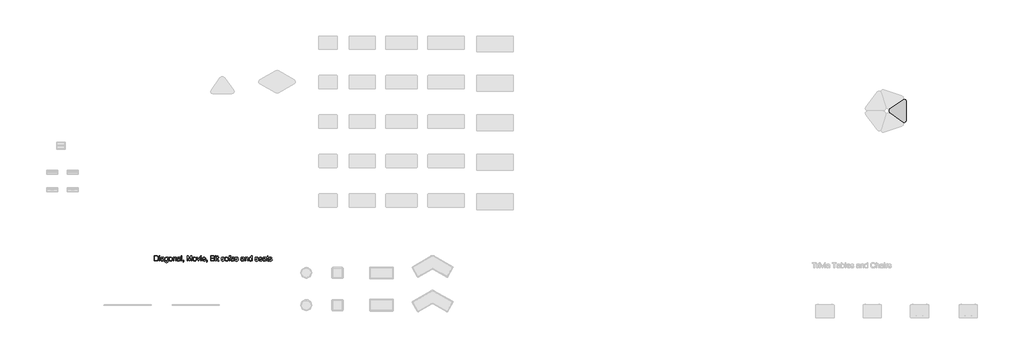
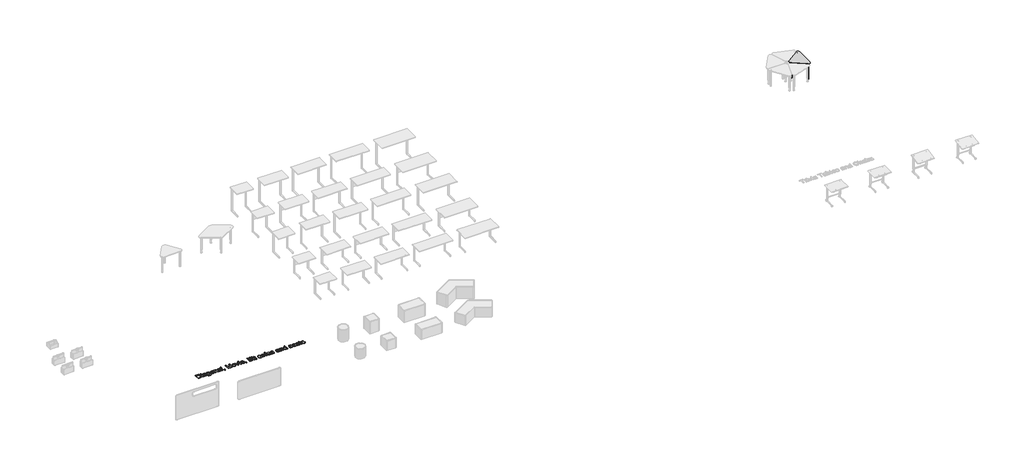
# One storey, part 2 of 3: 1 furniture element, 1 proxy.
"""IFC4 building model written with IfcOpenShell, lengths in millimetres."""

from ifc_helpers import new_model, si_unit, origin, origin_with_axes, place, context, project, spatial, polyline, outline, extrude, transform, mapped, element, save
from components import adjustable_legs_d527a67b

model = new_model("IFC4")

# Units and contexts
model_context = context("Model", 3, world=origin())
ifc_project = project(units=[si_unit("LENGTHUNIT", "METRE", prefix="MILLI")], contexts=[model_context])

# Site, building, storey
site = spatial("IfcSite", under=ifc_project)
building = spatial("IfcBuilding", under=site)
storey = spatial("IfcBuildingStorey", under=building, Name="Diagonal, Movie, Bit sofas and seats", Elevation=0.0)

# Proxy
placement = place(None, origin())
element("IfcBuildingElementProxy", 1, Name="200mm Arial", ObjectType="200mm Arial", at=placement, inside=storey, context=model_context, shape_type="SweptSolid", body=[
    extrude(outline(polyline([(-26454.8601888, 19572.007816), (-26454.8601888, 19772.9204363), (-26385.5512209, 19772.9204363), (-26349.6949891, 19770.0264313), (-26333.6798596, 19764.4468877), (-26320.1663276, 19755.654508), (-26306.2726509, 19740.350617), (-26296.3766253, 19721.3188551), (-26290.4537252, 19698.9271043), (-26288.4794251, 19673.5432467), (-26293.8259768, 19633.0026508), (-26307.5602379, 19603.7437695), (-26325.9052868, 19585.521348), (-26349.9157183, 19575.4413813), (-26382.2157575, 19572.007816), (-26454.8601888, 19572.007816)]), holes=[polyline([(-26429.7461113, 19597.1218935), (-26385.3059662, 19597.1218935), (-26352.9814016, 19600.7516626), (-26334.3420472, 19611.0033075), (-26325.6171125, 19621.8742205), (-26319.0626816, 19635.9457068), (-26314.9607974, 19653.2790801), (-26313.5935027, 19673.9356541), (-26316.2729098, 19701.3060746), (-26324.3111314, 19721.5150588), (-26336.1875885, 19735.3964728), (-26350.3817022, 19743.7841823), (-26385.9926793, 19747.8063588), (-26429.7461113, 19747.8063588), (-26429.7461113, 19597.1218935)])]), origin_with_axes(), (0.0, 0.0, 1.0), 10.0),
    extrude(outline(polyline([(-26257.0868282, 19747.8063588), (-26257.0868282, 19772.9204363), (-26231.9727507, 19772.9204363), (-26231.9727507, 19747.8063588), (-26257.0868282, 19747.8063588)])), origin_with_axes(), (0.0, 0.0, 1.0), 10.0),
    extrude(outline(polyline([(-26257.0868282, 19572.007816), (-26257.0868282, 19719.5530215), (-26231.9727507, 19719.5530215), (-26231.9727507, 19572.007816), (-26257.0868282, 19572.007816)])), origin_with_axes(), (0.0, 0.0, 1.0), 10.0),
    extrude(outline(polyline([(-26100.1238436, 19590.8433742), (-26124.4776317, 19573.8227005), (-26151.3820682, 19568.8685563), (-26172.3697361, 19571.8484005), (-26187.8514367, 19580.787933), (-26197.3979745, 19594.3627786), (-26200.5801537, 19611.2485622), (-26195.7731623, 19631.1141899), (-26183.1425472, 19645.5351641), (-26165.5577878, 19653.7757208), (-26143.8282246, 19657.5526426), (-26100.2709964, 19666.1856068), (-26100.1238436, 19671.7774131), (-26101.852889, 19682.9855512), (-26107.0400251, 19690.3186657), (-26118.6405707, 19695.7633192), (-26134.802853, 19697.5782037), (-26149.7633875, 19696.3703245), (-26160.2112361, 19692.7466868), (-26167.3358841, 19686.0451031), (-26172.3268165, 19675.6033858), (-26197.440894, 19678.7426455), (-26186.5761124, 19703.2681119), (-26177.3177489, 19711.5209313), (-26164.6993965, 19717.6400352), (-26131.5654914, 19722.6922812), (-26101.1293877, 19718.2286464), (-26083.9370358, 19707.0205082), (-26076.2360394, 19689.9753091), (-26075.009766, 19668.0004913), (-26075.009766, 19636.7550472), (-26073.7344418, 19593.1242425), (-26068.7312467, 19572.007816), (-26093.8453242, 19572.007816), (-26100.1238436, 19590.8433742)]), holes=[polyline([(-26100.1238436, 19641.0715292), (-26140.639914, 19633.3705328), (-26162.2468498, 19629.2993054), (-26172.0325109, 19622.6774295), (-26175.4660762, 19613.0143957), (-26173.5960094, 19605.5463912), (-26167.985809, 19599.4272874), (-26158.7581022, 19595.3437972), (-26146.0355166, 19593.9826339), (-26132.5465101, 19595.4848187), (-26120.6271334, 19599.9913731), (-26104.2441219, 19614.5349747), (-26100.2709964, 19633.959144), (-26100.1238436, 19641.0715292)])]), origin_with_axes(), (0.0, 0.0, 1.0), 10.0),
    extrude(outline(polyline([(-26046.7564288, 19559.4507772), (-26021.6423513, 19556.3115175), (-26018.8709736, 19548.4633683), (-26013.4998965, 19543.0677657), (-26002.9416832, 19538.873911), (-25989.1215829, 19537.4759594), (-25974.3817776, 19539.057852), (-25963.4188942, 19543.8035297), (-25955.8159996, 19551.4064243), (-25951.156161, 19561.5599673), (-25949.4393784, 19590.8433742), (-25967.1222396, 19576.7167055), (-25988.6801245, 19572.007816), (-26014.5728856, 19577.4892577), (-26033.880559, 19593.9335829), (-26045.8919061, 19618.0421163), (-26049.8956885, 19646.5161828), (-26048.0991981, 19666.7926121), (-26042.7097269, 19685.4380979), (-26033.9173472, 19701.2386295), (-26021.9121314, 19712.9801966), (-26007.1048811, 19720.2642601), (-25989.9063978, 19722.6922812), (-25967.5023843, 19717.1985768), (-25949.4393784, 19700.7174634), (-25949.4393784, 19719.5530215), (-25924.3253008, 19719.5530215), (-25924.3253008, 19592.1677493), (-25926.0420835, 19562.7555838), (-25931.1924314, 19543.3865968), (-25940.0645188, 19530.5413838), (-25952.94652, 19520.7005404), (-25969.5563921, 19514.4465465), (-25989.6120922, 19512.3618819), (-26012.9787303, 19515.2988065), (-26031.3789614, 19524.1095802), (-26043.1818421, 19538.8187287), (-26046.7564288, 19559.4507772)]), holes=[polyline([(-26024.781611, 19648.2329654), (-26022.1022038, 19625.1974211), (-26014.0639822, 19609.3601013), (-26001.9790586, 19600.1814455), (-25987.1595456, 19597.1218935), (-25972.4503972, 19600.1630514), (-25960.3041599, 19609.2865249), (-25952.1555738, 19624.9215096), (-25949.4393784, 19647.4972014), (-25952.2352815, 19669.2696842), (-25960.622991, 19684.9475885), (-25972.9470378, 19694.4205499), (-25987.5519531, 19697.5782037), (-26001.8932195, 19694.4696008), (-26013.9168294, 19685.1437923), (-26022.0654156, 19669.6988798), (-26024.781611, 19648.2329654)])]), origin_with_axes(), (0.0, 0.0, 1.0), 10.0),
    extrude(outline(polyline([(-25892.9327039, 19645.7804188), (-25887.5003131, 19681.3546077), (-25880.7098246, 19695.1777737), (-25871.2031407, 19706.3583206), (-25851.0677328, 19718.6087911), (-25826.9591994, 19722.6922812), (-25800.575929, 19717.7197429), (-25779.5024221, 19702.802128), (-25765.6884531, 19679.1166589), (-25761.0837968, 19647.8405579), (-25763.1194105, 19622.468963), (-25769.2262517, 19603.1551583), (-25779.2265106, 19588.6912645), (-25792.9423776, 19577.8694025), (-25809.2334186, 19571.1187679), (-25826.9591994, 19568.8685563), (-25853.6613009, 19573.8227005), (-25874.7102824, 19588.6851331), (-25888.3770985, 19612.8672429), (-25892.9327039, 19645.7804188)]), holes=[polyline([(-25867.8186264, 19645.8294697), (-25864.9123586, 19623.1004938), (-25856.1935553, 19606.9075546), (-25843.0724308, 19597.213864), (-25826.9591994, 19593.9826339), (-25810.9195444, 19597.2322581), (-25797.8229454, 19606.981131), (-25789.1041421, 19623.388668), (-25786.1978744, 19646.6142846), (-25789.1225362, 19668.681073), (-25797.8965218, 19684.6532829), (-25811.0115149, 19694.3469735), (-25826.9591994, 19697.5782037), (-25843.0724308, 19694.3592362), (-25856.1935553, 19684.7023339), (-25864.9123586, 19668.5461829), (-25867.8186264, 19645.8294697)])]), origin_with_axes(), (0.0, 0.0, 1.0), 10.0),
    extrude(outline(polyline([(-25732.8304596, 19572.007816), (-25732.8304596, 19719.5530215), (-25707.7163821, 19719.5530215), (-25707.7163821, 19698.9516298), (-25698.9914474, 19709.3381648), (-25688.5129419, 19716.7571184), (-25676.2808656, 19721.2084905), (-25662.2952184, 19722.6922812), (-25638.5790924, 19717.9098153), (-25622.3922846, 19705.3527765), (-25614.8629665, 19686.8851004), (-25613.5385913, 19662.6048887), (-25613.5385913, 19572.007816), (-25638.6526688, 19572.007816), (-25638.6526688, 19659.2203743), (-25641.5466739, 19681.4404468), (-25651.7737933, 19693.1881452), (-25669.0151962, 19697.5782037), (-25683.7243446, 19695.1133943), (-25696.2629893, 19687.7189662), (-25704.8530339, 19673.4328821), (-25707.7163821, 19650.2931046), (-25707.7163821, 19572.007816), (-25732.8304596, 19572.007816)])), origin_with_axes(), (0.0, 0.0, 1.0), 10.0),
    extrude(outline(polyline([(-25484.8289439, 19590.8433742), (-25509.182732, 19573.8227005), (-25536.0871686, 19568.8685563), (-25557.0748364, 19571.8484005), (-25572.556537, 19580.787933), (-25582.1030748, 19594.3627786), (-25585.2852541, 19611.2485622), (-25580.4782627, 19631.1141899), (-25567.8476475, 19645.5351641), (-25550.2628881, 19653.7757208), (-25528.5333249, 19657.5526426), (-25484.9760967, 19666.1856068), (-25484.8289439, 19671.7774131), (-25486.5579893, 19682.9855512), (-25491.7451254, 19690.3186657), (-25503.345671, 19695.7633192), (-25519.5079533, 19697.5782037), (-25534.4684878, 19696.3703245), (-25544.9163365, 19692.7466868), (-25552.0409844, 19686.0451031), (-25557.0319168, 19675.6033858), (-25582.1459944, 19678.7426455), (-25571.2812128, 19703.2681119), (-25562.0228492, 19711.5209313), (-25549.4044968, 19717.6400352), (-25516.2705918, 19722.6922812), (-25485.834488, 19718.2286464), (-25468.6421361, 19707.0205082), (-25460.9411397, 19689.9753091), (-25459.7148664, 19668.0004913), (-25459.7148664, 19636.7550472), (-25458.4395421, 19593.1242425), (-25453.436347, 19572.007816), (-25478.5504245, 19572.007816), (-25484.8289439, 19590.8433742)]), holes=[polyline([(-25484.8289439, 19641.0715292), (-25525.3450143, 19633.3705328), (-25546.9519502, 19629.2993054), (-25556.7376112, 19622.6774295), (-25560.1711765, 19613.0143957), (-25558.3011097, 19605.5463912), (-25552.6909093, 19599.4272874), (-25543.4632026, 19595.3437972), (-25530.7406169, 19593.9826339), (-25517.2516104, 19595.4848187), (-25505.3322338, 19599.9913731), (-25488.9492223, 19614.5349747), (-25484.9760967, 19633.959144), (-25484.8289439, 19641.0715292)])]), origin_with_axes(), (0.0, 0.0, 1.0), 10.0),
    extrude(outline(polyline([(-25425.1830098, 19572.007816), (-25425.1830098, 19772.9204363), (-25400.0689322, 19772.9204363), (-25400.0689322, 19572.007816), (-25425.1830098, 19572.007816)])), origin_with_axes(), (0.0, 0.0, 1.0), 10.0),
    extrude(outline(polyline([(-25356.1192965, 19572.007816), (-25356.1192965, 19597.1218935), (-25331.005219, 19597.1218935), (-25331.005219, 19572.007816), (-25335.5179048, 19546.3296527), (-25341.3549658, 19537.653769), (-25349.8407772, 19531.19744), (-25356.1192965, 19540.6152191), (-25346.8977212, 19551.4554752), (-25343.6113087, 19572.007816), (-25356.1192965, 19572.007816)])), origin_with_axes(), (0.0, 0.0, 1.0), 10.0),
    extrude(outline(polyline([(-25202.2955716, 19572.007816), (-25202.2955716, 19772.9204363), (-25159.0816999, 19772.9204363), (-25117.9770183, 19631.3103936), (-25109.6874107, 19601.7326812), (-25100.71109, 19633.7629403), (-25060.2931215, 19772.9204363), (-25017.0792498, 19772.9204363), (-25017.0792498, 19572.007816), (-25042.1933273, 19572.007816), (-25042.1933273, 19747.8063588), (-25092.6667371, 19572.007816), (-25126.7080843, 19572.007816), (-25177.1814941, 19747.8063588), (-25177.1814941, 19572.007816), (-25202.2955716, 19572.007816)])), origin_with_axes(), (0.0, 0.0, 1.0), 10.0),
    extrude(outline(polyline([(-24982.5473932, 19645.7804188), (-24977.1150024, 19681.3546077), (-24970.3245139, 19695.1777737), (-24960.81783, 19706.3583206), (-24940.6824221, 19718.6087911), (-24916.5738887, 19722.6922812), (-24890.1906183, 19717.7197429), (-24869.1171113, 19702.802128), (-24855.3031424, 19679.1166589), (-24850.6984861, 19647.8405579), (-24852.7340998, 19622.468963), (-24858.8409409, 19603.1551583), (-24868.8411998, 19588.6912645), (-24882.5570669, 19577.8694025), (-24898.8481079, 19571.1187679), (-24916.5738887, 19568.8685563), (-24943.2759902, 19573.8227005), (-24964.3249717, 19588.6851331), (-24977.9917878, 19612.8672429), (-24982.5473932, 19645.7804188)]), holes=[polyline([(-24957.4333156, 19645.8294697), (-24954.5270479, 19623.1004938), (-24945.8082446, 19606.9075546), (-24932.6871201, 19597.213864), (-24916.5738887, 19593.9826339), (-24900.5342337, 19597.2322581), (-24887.4376347, 19606.981131), (-24878.7188314, 19623.388668), (-24875.8125636, 19646.6142846), (-24878.7372255, 19668.681073), (-24887.5112111, 19684.6532829), (-24900.6262042, 19694.3469735), (-24916.5738887, 19697.5782037), (-24932.6871201, 19694.3592362), (-24945.8082446, 19684.7023339), (-24954.5270479, 19668.5461829), (-24957.4333156, 19645.8294697)])]), origin_with_axes(), (0.0, 0.0, 1.0), 10.0),
    extrude(outline(polyline([(-24786.2455605, 19572.007816), (-24838.1414473, 19719.5530215), (-24811.5558418, 19719.5530215), (-24780.114194, 19631.1632408), (-24770.6473639, 19601.4383756), (-24761.3767377, 19629.4955091), (-24729.7388861, 19719.5530215), (-24703.1532806, 19719.5530215), (-24754.4115052, 19572.007816), (-24786.2455605, 19572.007816)])), origin_with_axes(), (0.0, 0.0, 1.0), 10.0),
    extrude(outline(polyline([(-24681.1784627, 19572.007816), (-24681.1784627, 19719.5530215), (-24656.0643852, 19719.5530215), (-24656.0643852, 19572.007816), (-24681.1784627, 19572.007816)])), origin_with_axes(), (0.0, 0.0, 1.0), 10.0),
    extrude(outline(polyline([(-24681.1784627, 19747.8063588), (-24681.1784627, 19772.9204363), (-24656.0643852, 19772.9204363), (-24656.0643852, 19747.8063588), (-24681.1784627, 19747.8063588)])), origin_with_axes(), (0.0, 0.0, 1.0), 10.0),
    extrude(outline(polyline([(-24515.0920046, 19615.9574517), (-24490.4684364, 19612.818192), (-24499.3405239, 19594.2646767), (-24513.4978493, 19580.3955255), (-24532.6215817, 19571.7502986), (-24556.39289, 19568.8685563), (-24585.8602378, 19573.8410946), (-24608.5340314, 19588.7587095), (-24622.9917938, 19612.6526451), (-24627.811048, 19644.5541455), (-24622.9427429, 19677.528635), (-24608.3378277, 19702.1889914), (-24585.9706024, 19717.5664588), (-24557.815367, 19722.6922812), (-24530.5369171, 19717.5787215), (-24508.7399088, 19702.2380423), (-24494.4476933, 19677.6267368), (-24489.6836215, 19644.7012983), (-24489.8307743, 19637.9322695), (-24602.6969704, 19637.9322695), (-24598.3498315, 19619.1334996), (-24588.2514707, 19605.3133993), (-24573.6772124, 19596.8153252), (-24555.9023806, 19593.9826339), (-24531.2788124, 19599.2310837), (-24522.1308135, 19606.0369006), (-24515.0920046, 19615.9574517)]), holes=[polyline([(-24602.6969704, 19663.0463471), (-24514.797699, 19663.0463471), (-24518.1944761, 19676.3146244), (-24524.8531402, 19685.8059798), (-24539.4948436, 19694.6351477), (-24557.9134689, 19697.5782037), (-24574.842172, 19695.2298903), (-24588.8400819, 19688.1849501), (-24598.5705607, 19677.2036725), (-24602.6969704, 19663.0463471)])]), origin_with_axes(), (0.0, 0.0, 1.0), 10.0),
    extrude(outline(polyline([(-24458.2910246, 19572.007816), (-24458.2910246, 19597.1218935), (-24433.176947, 19597.1218935), (-24433.176947, 19572.007816), (-24437.6896328, 19546.3296527), (-24443.5266938, 19537.653769), (-24452.0125052, 19531.19744), (-24458.2910246, 19540.6152191), (-24449.0694492, 19551.4554752), (-24445.7830367, 19572.007816), (-24458.2910246, 19572.007816)])), origin_with_axes(), (0.0, 0.0, 1.0), 10.0),
    extrude(outline(polyline([(-24304.4672997, 19572.007816), (-24304.4672997, 19772.9204363), (-24227.8006919, 19772.9204363), (-24206.7149222, 19771.442777), (-24190.2522029, 19767.0097989), (-24177.6338505, 19759.5111376), (-24168.0811813, 19748.8364284), (-24162.0663107, 19736.2793896), (-24160.0613538, 19723.1337396), (-24161.7474796, 19711.0365534), (-24166.8058571, 19699.6628683), (-24175.2732743, 19689.7116604), (-24187.1865196, 19681.8819052), (-24172.9556177, 19674.4506889), (-24162.4403241, 19663.1444489), (-24155.9472068, 19648.711212), (-24153.7828344, 19631.8990048), (-24159.6934718, 19604.8964664), (-24174.3351752, 19585.6685008), (-24196.1873657, 19575.4659068), (-24228.3893031, 19572.007816), (-24304.4672997, 19572.007816)]), holes=[polyline([(-24279.3532221, 19691.2996843), (-24233.4906001, 19691.2996843), (-24206.7087908, 19693.4579253), (-24190.5955594, 19702.7530771), (-24185.1754314, 19719.1115631), (-24190.2276774, 19735.4945747), (-24204.6977026, 19745.1821339), (-24236.9732163, 19747.8063588), (-24279.3532221, 19747.8063588), (-24279.3532221, 19691.2996843)]), polyline([(-24279.3532221, 19597.1218935), (-24227.8497428, 19597.1218935), (-24209.2103884, 19598.1029122), (-24193.4405135, 19603.5720912), (-24182.9926649, 19614.7311784), (-24178.896912, 19631.6537502), (-24183.7039034, 19651.1760214), (-24190.0008169, 19658.2332243), (-24199.2775745, 19662.8256179), (-24230.3022894, 19666.1856068), (-24279.3532221, 19666.1856068), (-24279.3532221, 19597.1218935)])]), origin_with_axes(), (0.0, 0.0, 1.0), 10.0),
    extrude(outline(polyline([(-24122.3902375, 19572.007816), (-24122.3902375, 19719.5530215), (-24097.27616, 19719.5530215), (-24097.27616, 19572.007816), (-24122.3902375, 19572.007816)])), origin_with_axes(), (0.0, 0.0, 1.0), 10.0),
    extrude(outline(polyline([(-24122.3902375, 19747.8063588), (-24122.3902375, 19772.9204363), (-24097.27616, 19772.9204363), (-24097.27616, 19747.8063588), (-24122.3902375, 19747.8063588)])), origin_with_axes(), (0.0, 0.0, 1.0), 10.0),
    extrude(outline(polyline([(-24006.2376289, 19592.9525643), (-24003.0983692, 19571.272052), (-24021.8848764, 19568.8685563), (-24042.9277266, 19573.0378856), (-24053.4246261, 19583.9762436), (-24056.465784, 19612.4748355), (-24056.465784, 19694.438944), (-24075.3013421, 19694.438944), (-24075.3013421, 19719.5530215), (-24056.465784, 19719.5530215), (-24056.465784, 19755.4092533), (-24031.3517064, 19770.1735841), (-24031.3517064, 19719.5530215), (-24006.2376289, 19719.5530215), (-24006.2376289, 19694.438944), (-24031.3517064, 19694.438944), (-24031.3517064, 19613.2105995), (-24030.0273313, 19600.2611532), (-24025.7353746, 19595.674891), (-24017.1759869, 19593.9826339), (-24006.2376289, 19592.9525643)])), origin_with_axes(), (0.0, 0.0, 1.0), 10.0),
    extrude(outline(polyline([(-23912.0598381, 19615.9574517), (-23886.9457606, 19619.0967114), (-23882.9848978, 19608.3545571), (-23875.3206896, 19600.457357), (-23863.904085, 19595.6013146), (-23848.6860331, 19593.9826339), (-23833.6519222, 19595.4664246), (-23823.0814462, 19599.9177967), (-23816.8274523, 19606.3679944), (-23814.7427877, 19613.8482616), (-23816.8397151, 19620.2494083), (-23823.1304972, 19625.1299761), (-23848.9803387, 19632.2914123), (-23886.7986078, 19644.5786709), (-23896.369671, 19650.7529571), (-23903.3042467, 19658.9260687), (-23908.9205784, 19679.1841039), (-23904.4078926, 19697.8970348), (-23892.0961085, 19712.1953816), (-23876.1300299, 19719.6265979), (-23854.5230941, 19722.6922812), (-23823.964363, 19717.7626625), (-23812.5354957, 19711.9623897), (-23804.5401937, 19704.4208088), (-23795.9072295, 19681.8819052), (-23821.0213071, 19678.7426455), (-23824.1912236, 19686.6459771), (-23830.4636116, 19692.599534), (-23852.5610568, 19697.5782037), (-23866.982031, 19696.3887186), (-23876.5960138, 19692.8202632), (-23882.0038791, 19687.6699153), (-23883.8065009, 19681.7347524), (-23880.814394, 19674.4261635), (-23871.4456659, 19668.8834081), (-23849.8142046, 19663.5368564), (-23812.9524286, 19651.7155816), (-23795.8336531, 19638.324677), (-23791.1799459, 19628.4777023), (-23789.6287101, 19616.497012), (-23791.449726, 19604.1116515), (-23796.9127736, 19592.4620549), (-23805.8093866, 19582.461796), (-23817.9310983, 19575.0244484), (-23832.5728017, 19570.4075293), (-23849.0293896, 19568.8685563), (-23874.3519336, 19571.8361377), (-23892.8318725, 19580.738882), (-23905.1681821, 19595.4786873), (-23912.0598381, 19615.9574517)])), origin_with_axes(), (0.0, 0.0, 1.0), 10.0),
    extrude(outline(polyline([(-23767.6538923, 19645.7804188), (-23762.2215015, 19681.3546077), (-23755.431013, 19695.1777737), (-23745.9243291, 19706.3583206), (-23725.7889212, 19718.6087911), (-23701.6803878, 19722.6922812), (-23675.2971174, 19717.7197429), (-23654.2236105, 19702.802128), (-23640.4096415, 19679.1166589), (-23635.8049852, 19647.8405579), (-23637.8405989, 19622.468963), (-23643.9474401, 19603.1551583), (-23653.947699, 19588.6912645), (-23667.663566, 19577.8694025), (-23683.954607, 19571.1187679), (-23701.6803878, 19568.8685563), (-23728.3824893, 19573.8227005), (-23749.4314708, 19588.6851331), (-23763.0982869, 19612.8672429), (-23767.6538923, 19645.7804188)]), holes=[polyline([(-23742.5398148, 19645.8294697), (-23739.633547, 19623.1004938), (-23730.9147437, 19606.9075546), (-23717.7936192, 19597.213864), (-23701.6803878, 19593.9826339), (-23685.6407328, 19597.2322581), (-23672.5441338, 19606.981131), (-23663.8253305, 19623.388668), (-23660.9190628, 19646.6142846), (-23663.8437246, 19668.681073), (-23672.6177102, 19684.6532829), (-23685.7327033, 19694.3469735), (-23701.6803878, 19697.5782037), (-23717.7936192, 19694.3592362), (-23730.9147437, 19684.7023339), (-23739.633547, 19668.5461829), (-23742.5398148, 19645.8294697)])]), origin_with_axes(), (0.0, 0.0, 1.0), 10.0),
    extrude(outline(polyline([(-23601.2731286, 19572.007816), (-23601.2731286, 19694.438944), (-23623.2479465, 19694.438944), (-23623.2479465, 19719.5530215), (-23601.2731286, 19719.5530215), (-23601.2731286, 19734.4154541), (-23598.6243782, 19755.3602024), (-23593.5721322, 19763.7111237), (-23585.7730339, 19770.3207369), (-23574.8592014, 19774.6249562), (-23560.4627526, 19776.059696), (-23537.555967, 19773.3128438), (-23541.234787, 19749.7683961), (-23555.7048121, 19750.9456185), (-23571.5237379, 19746.7762892), (-23575.0002228, 19740.8043381), (-23576.1590511, 19731.2271435), (-23576.1590511, 19719.5530215), (-23547.9057138, 19719.5530215), (-23547.9057138, 19694.438944), (-23576.1590511, 19694.438944), (-23576.1590511, 19572.007816), (-23601.2731286, 19572.007816)])), origin_with_axes(), (0.0, 0.0, 1.0), 10.0),
    extrude(outline(polyline([(-23431.7531052, 19590.8433742), (-23456.1068933, 19573.8227005), (-23483.0113299, 19568.8685563), (-23503.9989977, 19571.8484005), (-23519.4806984, 19580.787933), (-23529.0272361, 19594.3627786), (-23532.2094154, 19611.2485622), (-23527.402424, 19631.1141899), (-23514.7718088, 19645.5351641), (-23497.1870494, 19653.7757208), (-23475.4574863, 19657.5526426), (-23431.900258, 19666.1856068), (-23431.7531052, 19671.7774131), (-23433.4821506, 19682.9855512), (-23438.6692867, 19690.3186657), (-23450.2698323, 19695.7633192), (-23466.4321146, 19697.5782037), (-23481.3926491, 19696.3703245), (-23491.8404978, 19692.7466868), (-23498.9651458, 19686.0451031), (-23503.9560782, 19675.6033858), (-23529.0701557, 19678.7426455), (-23518.2053741, 19703.2681119), (-23508.9470106, 19711.5209313), (-23496.3286581, 19717.6400352), (-23463.1947531, 19722.6922812), (-23432.7586494, 19718.2286464), (-23415.5662974, 19707.0205082), (-23407.865301, 19689.9753091), (-23406.6390277, 19668.0004913), (-23406.6390277, 19636.7550472), (-23405.3637034, 19593.1242425), (-23400.3605083, 19572.007816), (-23425.4745858, 19572.007816), (-23431.7531052, 19590.8433742)]), holes=[polyline([(-23431.7531052, 19641.0715292), (-23472.2691756, 19633.3705328), (-23493.8761115, 19629.2993054), (-23503.6617726, 19622.6774295), (-23507.0953378, 19613.0143957), (-23505.225271, 19605.5463912), (-23499.6150706, 19599.4272874), (-23490.3873639, 19595.3437972), (-23477.6647782, 19593.9826339), (-23464.1757717, 19595.4848187), (-23452.2563951, 19599.9913731), (-23435.8733836, 19614.5349747), (-23431.900258, 19633.959144), (-23431.7531052, 19641.0715292)])]), origin_with_axes(), (0.0, 0.0, 1.0), 10.0),
    extrude(outline(polyline([(-23381.5249502, 19615.9574517), (-23356.4108726, 19619.0967114), (-23352.4500098, 19608.3545571), (-23344.7858016, 19600.457357), (-23333.369197, 19595.6013146), (-23318.1511451, 19593.9826339), (-23303.1170343, 19595.4664246), (-23292.5465583, 19599.9177967), (-23286.2925643, 19606.3679944), (-23284.2078997, 19613.8482616), (-23286.3048271, 19620.2494083), (-23292.5956092, 19625.1299761), (-23318.4454507, 19632.2914123), (-23356.2637198, 19644.5786709), (-23365.8347831, 19650.7529571), (-23372.7693587, 19658.9260687), (-23378.3856905, 19679.1841039), (-23373.8730047, 19697.8970348), (-23361.5612206, 19712.1953816), (-23345.595142, 19719.6265979), (-23323.9882061, 19722.6922812), (-23293.429475, 19717.7626625), (-23282.0006077, 19711.9623897), (-23274.0053057, 19704.4208088), (-23265.3723415, 19681.8819052), (-23290.4864191, 19678.7426455), (-23293.6563356, 19686.6459771), (-23299.9287236, 19692.599534), (-23322.0261688, 19697.5782037), (-23336.447143, 19696.3887186), (-23346.0611258, 19692.8202632), (-23351.4689912, 19687.6699153), (-23353.2716129, 19681.7347524), (-23350.279506, 19674.4261635), (-23340.9107779, 19668.8834081), (-23319.2793166, 19663.5368564), (-23282.4175407, 19651.7155816), (-23265.2987651, 19638.324677), (-23260.6450579, 19628.4777023), (-23259.0938222, 19616.497012), (-23260.914838, 19604.1116515), (-23266.3778857, 19592.4620549), (-23275.2744986, 19582.461796), (-23287.3962103, 19575.0244484), (-23302.0379137, 19570.4075293), (-23318.4945017, 19568.8685563), (-23343.8170457, 19571.8361377), (-23362.2969845, 19580.738882), (-23374.6332941, 19595.4786873), (-23381.5249502, 19615.9574517)])), origin_with_axes(), (0.0, 0.0, 1.0), 10.0),
    extrude(outline(polyline([(-23058.1812019, 19590.8433742), (-23082.5349899, 19573.8227005), (-23109.4394265, 19568.8685563), (-23130.4270944, 19571.8484005), (-23145.908795, 19580.787933), (-23155.4553328, 19594.3627786), (-23158.637512, 19611.2485622), (-23153.8305206, 19631.1141899), (-23141.1999054, 19645.5351641), (-23123.6151461, 19653.7757208), (-23101.8855829, 19657.5526426), (-23058.3283547, 19666.1856068), (-23058.1812019, 19671.7774131), (-23059.9102472, 19682.9855512), (-23065.0973834, 19690.3186657), (-23076.697929, 19695.7633192), (-23092.8602113, 19697.5782037), (-23107.8207457, 19696.3703245), (-23118.2685944, 19692.7466868), (-23125.3932424, 19686.0451031), (-23130.3841748, 19675.6033858), (-23155.4982523, 19678.7426455), (-23144.6334707, 19703.2681119), (-23135.3751072, 19711.5209313), (-23122.7567548, 19717.6400352), (-23089.6228497, 19722.6922812), (-23059.186746, 19718.2286464), (-23041.9943941, 19707.0205082), (-23034.2933976, 19689.9753091), (-23033.0671243, 19668.0004913), (-23033.0671243, 19636.7550472), (-23031.7918001, 19593.1242425), (-23026.7886049, 19572.007816), (-23051.9026825, 19572.007816), (-23058.1812019, 19590.8433742)]), holes=[polyline([(-23058.1812019, 19641.0715292), (-23098.6972723, 19633.3705328), (-23120.3042081, 19629.2993054), (-23130.0898692, 19622.6774295), (-23133.5234345, 19613.0143957), (-23131.6533677, 19605.5463912), (-23126.0431672, 19599.4272874), (-23116.8154605, 19595.3437972), (-23104.0928749, 19593.9826339), (-23090.6038684, 19595.4848187), (-23078.6844917, 19599.9913731), (-23062.3014802, 19614.5349747), (-23058.3283547, 19633.959144), (-23058.1812019, 19641.0715292)])]), origin_with_axes(), (0.0, 0.0, 1.0), 10.0),
    extrude(outline(polyline([(-22998.5352677, 19572.007816), (-22998.5352677, 19719.5530215), (-22973.4211902, 19719.5530215), (-22973.4211902, 19698.9516298), (-22964.6962555, 19709.3381648), (-22954.21775, 19716.7571184), (-22941.9856737, 19721.2084905), (-22928.0000265, 19722.6922812), (-22904.2839005, 19717.9098153), (-22888.0970928, 19705.3527765), (-22880.5677746, 19686.8851004), (-22879.2433994, 19662.6048887), (-22879.2433994, 19572.007816), (-22904.3574769, 19572.007816), (-22904.3574769, 19659.2203743), (-22907.251482, 19681.4404468), (-22917.4786014, 19693.1881452), (-22934.7200043, 19697.5782037), (-22949.4291527, 19695.1133943), (-22961.9677974, 19687.7189662), (-22970.557842, 19673.4328821), (-22973.4211902, 19650.2931046), (-22973.4211902, 19572.007816), (-22998.5352677, 19572.007816)])), origin_with_axes(), (0.0, 0.0, 1.0), 10.0),
    extrude(outline(polyline([(-22753.6730117, 19572.007816), (-22753.6730117, 19595.6994165), (-22761.1870015, 19583.9609152), (-22770.2890152, 19575.5762714), (-22780.9790528, 19570.5454851), (-22793.2571144, 19568.8685563), (-22809.4929731, 19571.2965775), (-22824.3554057, 19578.580641), (-22836.93697, 19590.2118434), (-22846.3302236, 19605.6812813), (-22852.1795473, 19624.3635553), (-22854.1293219, 19645.633266), (-22852.3328315, 19666.6393279), (-22846.9433602, 19685.6097761), (-22837.9670396, 19701.4654901), (-22825.4100008, 19713.1273494), (-22810.2226057, 19720.3010483), (-22793.3552163, 19722.6922812), (-22781.0679576, 19720.98163), (-22770.203176, 19715.8496761), (-22753.6730117, 19698.068713), (-22753.6730117, 19772.9204363), (-22728.5589342, 19772.9204363), (-22728.5589342, 19572.007816), (-22753.6730117, 19572.007816)]), holes=[polyline([(-22829.0152443, 19645.7313678), (-22826.182553, 19623.0146546), (-22817.6844789, 19606.8585037), (-22805.3359066, 19597.2016013), (-22790.9517206, 19593.9826339), (-22776.5736659, 19597.0544485), (-22764.5377933, 19606.2698925), (-22756.3892071, 19621.8006441), (-22753.6730117, 19643.8183815), (-22756.4382581, 19667.8901267), (-22764.733997, 19684.5797065), (-22777.076438, 19694.3285794), (-22791.9817902, 19697.5782037), (-22806.513129, 19694.4573381), (-22818.4202429, 19685.0947413), (-22826.366494, 19669.0121668), (-22829.0152443, 19645.7313678)])]), origin_with_axes(), (0.0, 0.0, 1.0), 10.0),
    extrude(outline(polyline([(-22621.8241047, 19615.9574517), (-22596.7100271, 19619.0967114), (-22592.7491643, 19608.3545571), (-22585.0849561, 19600.457357), (-22573.6683515, 19595.6013146), (-22558.4502996, 19593.9826339), (-22543.4161887, 19595.4664246), (-22532.8457128, 19599.9177967), (-22526.5917188, 19606.3679944), (-22524.5070542, 19613.8482616), (-22526.6039816, 19620.2494083), (-22532.8947637, 19625.1299761), (-22558.7446052, 19632.2914123), (-22596.5628743, 19644.5786709), (-22606.1339376, 19650.7529571), (-22613.0685132, 19658.9260687), (-22618.684845, 19679.1841039), (-22614.1721592, 19697.8970348), (-22601.860375, 19712.1953816), (-22585.8942965, 19719.6265979), (-22564.2873606, 19722.6922812), (-22533.7286295, 19717.7626625), (-22522.2997622, 19711.9623897), (-22514.3044602, 19704.4208088), (-22505.671496, 19681.8819052), (-22530.7855736, 19678.7426455), (-22533.9554901, 19686.6459771), (-22540.2278781, 19692.599534), (-22562.3253233, 19697.5782037), (-22576.7462975, 19696.3887186), (-22586.3602803, 19692.8202632), (-22591.7681456, 19687.6699153), (-22593.5707674, 19681.7347524), (-22590.5786605, 19674.4261635), (-22581.2099324, 19668.8834081), (-22559.5784711, 19663.5368564), (-22522.7166952, 19651.7155816), (-22505.5979196, 19638.324677), (-22500.9442124, 19628.4777023), (-22499.3929767, 19616.497012), (-22501.2139925, 19604.1116515), (-22506.6770402, 19592.4620549), (-22515.5736531, 19582.461796), (-22527.6953648, 19575.0244484), (-22542.3370682, 19570.4075293), (-22558.7936561, 19568.8685563), (-22584.1162001, 19571.8361377), (-22602.596139, 19580.738882), (-22614.9324486, 19595.4786873), (-22621.8241047, 19615.9574517)])), origin_with_axes(), (0.0, 0.0, 1.0), 10.0),
    extrude(outline(polyline([(-22367.8383752, 19615.9574517), (-22343.214807, 19612.818192), (-22352.0868944, 19594.2646767), (-22366.2442199, 19580.3955255), (-22385.3679523, 19571.7502986), (-22409.1392605, 19568.8685563), (-22438.6066083, 19573.8410946), (-22461.280402, 19588.7587095), (-22475.7381644, 19612.6526451), (-22480.5574185, 19644.5541455), (-22475.6891134, 19677.528635), (-22461.0841982, 19702.1889914), (-22438.7169729, 19717.5664588), (-22410.5617376, 19722.6922812), (-22383.2832876, 19717.5787215), (-22361.4862794, 19702.2380423), (-22347.1940639, 19677.6267368), (-22342.429992, 19644.7012983), (-22342.5771448, 19637.9322695), (-22455.443341, 19637.9322695), (-22451.0962021, 19619.1334996), (-22440.9978413, 19605.3133993), (-22426.4235829, 19596.8153252), (-22408.6487512, 19593.9826339), (-22384.025183, 19599.2310837), (-22374.877184, 19606.0369006), (-22367.8383752, 19615.9574517)]), holes=[polyline([(-22455.443341, 19663.0463471), (-22367.5440696, 19663.0463471), (-22370.9408467, 19676.3146244), (-22377.5995108, 19685.8059798), (-22392.2412142, 19694.6351477), (-22410.6598394, 19697.5782037), (-22427.5885426, 19695.2298903), (-22441.5864525, 19688.1849501), (-22451.3169313, 19677.2036725), (-22455.443341, 19663.0463471)])]), origin_with_axes(), (0.0, 0.0, 1.0), 10.0),
    extrude(outline(polyline([(-22223.1381237, 19590.8433742), (-22247.4919118, 19573.8227005), (-22274.3963484, 19568.8685563), (-22295.3840162, 19571.8484005), (-22310.8657169, 19580.787933), (-22320.4122546, 19594.3627786), (-22323.5944339, 19611.2485622), (-22318.7874425, 19631.1141899), (-22306.1568273, 19645.5351641), (-22288.572068, 19653.7757208), (-22266.8425048, 19657.5526426), (-22223.2852765, 19666.1856068), (-22223.1381237, 19671.7774131), (-22224.8671691, 19682.9855512), (-22230.0543053, 19690.3186657), (-22241.6548508, 19695.7633192), (-22257.8171332, 19697.5782037), (-22272.7776676, 19696.3703245), (-22283.2255163, 19692.7466868), (-22290.3501643, 19686.0451031), (-22295.3410967, 19675.6033858), (-22320.4551742, 19678.7426455), (-22309.5903926, 19703.2681119), (-22300.3320291, 19711.5209313), (-22287.7136766, 19717.6400352), (-22254.5797716, 19722.6922812), (-22224.1436679, 19718.2286464), (-22206.951316, 19707.0205082), (-22199.2503195, 19689.9753091), (-22198.0240462, 19668.0004913), (-22198.0240462, 19636.7550472), (-22196.748722, 19593.1242425), (-22191.7455268, 19572.007816), (-22216.8596044, 19572.007816), (-22223.1381237, 19590.8433742)]), holes=[polyline([(-22223.1381237, 19641.0715292), (-22263.6541941, 19633.3705328), (-22285.26113, 19629.2993054), (-22295.0467911, 19622.6774295), (-22298.4803564, 19613.0143957), (-22296.6102895, 19605.5463912), (-22291.0000891, 19599.4272874), (-22281.7723824, 19595.3437972), (-22269.0497967, 19593.9826339), (-22255.5607903, 19595.4848187), (-22243.6414136, 19599.9913731), (-22227.2584021, 19614.5349747), (-22223.2852765, 19633.959144), (-22223.1381237, 19641.0715292)])]), origin_with_axes(), (0.0, 0.0, 1.0), 10.0),
    extrude(outline(polyline([(-22110.1247748, 19592.9525643), (-22106.9855151, 19571.272052), (-22125.7720224, 19568.8685563), (-22146.8148725, 19573.0378856), (-22157.3117721, 19583.9762436), (-22160.3529299, 19612.4748355), (-22160.3529299, 19694.438944), (-22179.1884881, 19694.438944), (-22179.1884881, 19719.5530215), (-22160.3529299, 19719.5530215), (-22160.3529299, 19755.4092533), (-22135.2388524, 19770.1735841), (-22135.2388524, 19719.5530215), (-22110.1247748, 19719.5530215), (-22110.1247748, 19694.438944), (-22135.2388524, 19694.438944), (-22135.2388524, 19613.2105995), (-22133.9144772, 19600.2611532), (-22129.6225206, 19595.674891), (-22121.0631328, 19593.9826339), (-22110.1247748, 19592.9525643)])), origin_with_axes(), (0.0, 0.0, 1.0), 10.0),
    extrude(outline(polyline([(-22094.4284764, 19615.9574517), (-22069.3143988, 19619.0967114), (-22065.353536, 19608.3545571), (-22057.6893278, 19600.457357), (-22046.2727232, 19595.6013146), (-22031.0546713, 19593.9826339), (-22016.0205605, 19595.4664246), (-22005.4500845, 19599.9177967), (-21999.1960905, 19606.3679944), (-21997.1114259, 19613.8482616), (-21999.2083533, 19620.2494083), (-22005.4991354, 19625.1299761), (-22031.3489769, 19632.2914123), (-22069.167246, 19644.5786709), (-22078.7383093, 19650.7529571), (-22085.6728849, 19658.9260687), (-22091.2892167, 19679.1841039), (-22086.7765309, 19697.8970348), (-22074.4647468, 19712.1953816), (-22058.4986682, 19719.6265979), (-22036.8917323, 19722.6922812), (-22006.3330013, 19717.7626625), (-21994.9041339, 19711.9623897), (-21986.9088319, 19704.4208088), (-21978.2758678, 19681.8819052), (-22003.3899453, 19678.7426455), (-22006.5598618, 19686.6459771), (-22012.8322498, 19692.599534), (-22034.929695, 19697.5782037), (-22049.3506692, 19696.3887186), (-22058.964652, 19692.8202632), (-22064.3725174, 19687.6699153), (-22066.1751391, 19681.7347524), (-22063.1830322, 19674.4261635), (-22053.8143041, 19668.8834081), (-22032.1828428, 19663.5368564), (-21995.3210669, 19651.7155816), (-21978.2022914, 19638.324677), (-21973.5485841, 19628.4777023), (-21971.9973484, 19616.497012), (-21973.8183642, 19604.1116515), (-21979.2814119, 19592.4620549), (-21988.1780248, 19582.461796), (-22000.2997365, 19575.0244484), (-22014.9414399, 19570.4075293), (-22031.3980279, 19568.8685563), (-22056.7205719, 19571.8361377), (-22075.2005108, 19580.738882), (-22087.5368203, 19595.4786873), (-22094.4284764, 19615.9574517)])), origin_with_axes(), (0.0, 0.0, 1.0), 10.0),
])

# Furniture
adjustable_legs_shape = adjustable_legs_d527a67b(model_context)
element("IfcFurniture", 2, ObjectType="Pinta Triangle : Adjustable Legs", at=placement, inside=storey, context=model_context, shape_type="MappedRepresentation", body=[
    mapped(adjustable_legs_shape, transform((2046.9178757, 25275.927613, 0.0), x_axis=(1.0, 0.0, 0.0), y_axis=(0.0, 1.0, 0.0), z_axis=(0.0, 0.0, 1.0))),
])

save(model, "model.ifc")
